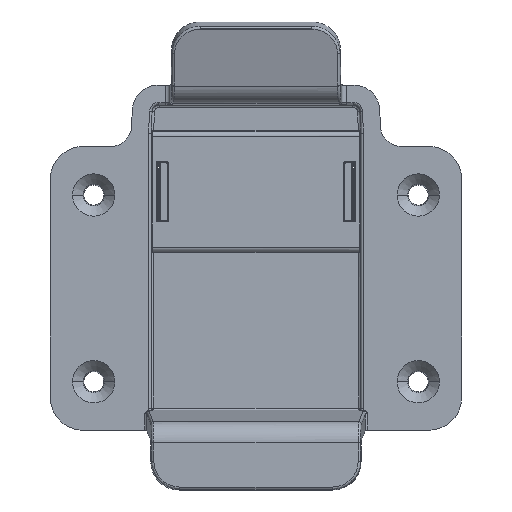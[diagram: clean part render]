
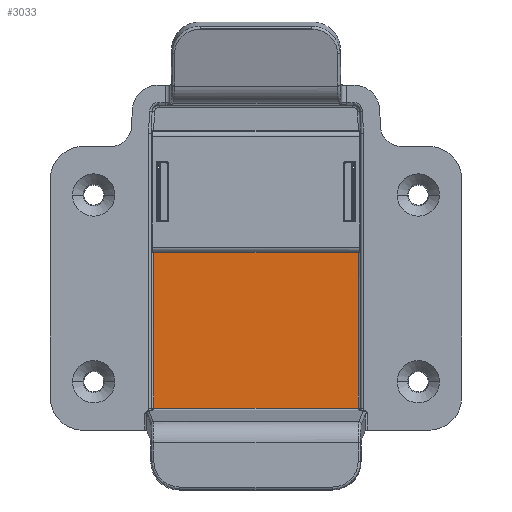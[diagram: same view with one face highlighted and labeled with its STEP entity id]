
A CAD part, top view. The second image highlights one B-rep face of the part: STEP entity #3033.
In plain terms, the highlighted planar face has unit normal (0, 0, 1).
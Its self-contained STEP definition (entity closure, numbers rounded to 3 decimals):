
#264 = CARTESIAN_POINT ( 'NONE',  ( 21.717, 8.34, -44.2 ) ) ;
#606 = VECTOR ( 'NONE', #30430, 1000. ) ;
#2129 = VERTEX_POINT ( 'NONE', #264 ) ;
#2332 = PLANE ( 'NONE',  #6844 ) ;
#3033 = ADVANCED_FACE ( 'NONE', ( #8421 ), #2332, .T. ) ;
#4157 = VECTOR ( 'NONE', #35407, 1000. ) ;
#4530 = ORIENTED_EDGE ( 'NONE', *, *, #9525, .T. ) ;
#4669 = CARTESIAN_POINT ( 'NONE',  ( -21.717, 8.34, -44.2 ) ) ;
#4800 = DIRECTION ( 'NONE',  ( 1., 0., 0. ) ) ;
#4937 = LINE ( 'NONE', #33686, #606 ) ;
#5808 = CARTESIAN_POINT ( 'NONE',  ( 21.717, 41.343, -44.2 ) ) ;
#6844 = AXIS2_PLACEMENT_3D ( 'NONE', #13559, #13369, #4800 ) ;
#7707 = DIRECTION ( 'NONE',  ( -1., 0., 0. ) ) ;
#8421 = FACE_OUTER_BOUND ( 'NONE', #14953, .T. ) ;
#8729 = VECTOR ( 'NONE', #36888, 1000. ) ;
#9525 = EDGE_CURVE ( 'NONE', #37645, #37171, #4937, .T. ) ;
#12590 = ORIENTED_EDGE ( 'NONE', *, *, #17309, .T. ) ;
#13369 = DIRECTION ( 'NONE',  ( 0., 0., 1. ) ) ;
#13559 = CARTESIAN_POINT ( 'NONE',  ( 26.2, 42.8, -44.2 ) ) ;
#13987 = EDGE_CURVE ( 'NONE', #27549, #37645, #18915, .T. ) ;
#14953 = EDGE_LOOP ( 'NONE', ( #22576, #16076, #4530, #12590 ) ) ;
#16076 = ORIENTED_EDGE ( 'NONE', *, *, #13987, .T. ) ;
#16548 = LINE ( 'NONE', #28150, #8729 ) ;
#17309 = EDGE_CURVE ( 'NONE', #37171, #2129, #16548, .T. ) ;
#18915 = LINE ( 'NONE', #21751, #34758 ) ;
#21751 = CARTESIAN_POINT ( 'NONE',  ( 21.717, 41.343, -44.2 ) ) ;
#22576 = ORIENTED_EDGE ( 'NONE', *, *, #31768, .T. ) ;
#25656 = CARTESIAN_POINT ( 'NONE',  ( -21.717, 41.343, -44.2 ) ) ;
#27549 = VERTEX_POINT ( 'NONE', #5808 ) ;
#28150 = CARTESIAN_POINT ( 'NONE',  ( 21.717, 8.34, -44.2 ) ) ;
#30068 = LINE ( 'NONE', #36169, #4157 ) ;
#30430 = DIRECTION ( 'NONE',  ( 0., -1., 0. ) ) ;
#31768 = EDGE_CURVE ( 'NONE', #2129, #27549, #30068, .T. ) ;
#33686 = CARTESIAN_POINT ( 'NONE',  ( -21.717, 7.882, -44.2 ) ) ;
#34758 = VECTOR ( 'NONE', #7707, 1000. ) ;
#35407 = DIRECTION ( 'NONE',  ( 0., 1., 0. ) ) ;
#36169 = CARTESIAN_POINT ( 'NONE',  ( 21.717, 66.75, -44.2 ) ) ;
#36888 = DIRECTION ( 'NONE',  ( 1., 0., 0. ) ) ;
#37171 = VERTEX_POINT ( 'NONE', #4669 ) ;
#37645 = VERTEX_POINT ( 'NONE', #25656 ) ;
